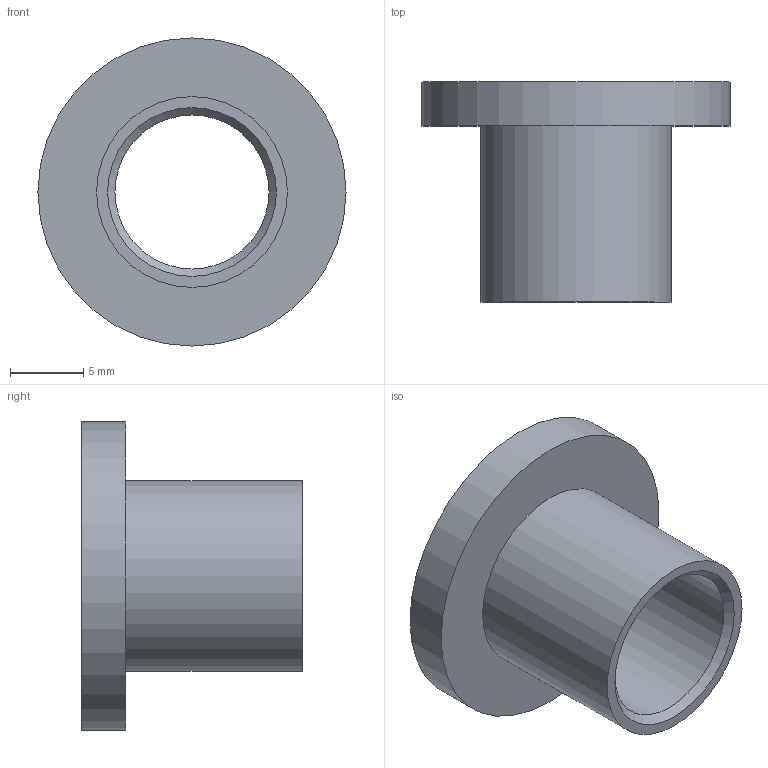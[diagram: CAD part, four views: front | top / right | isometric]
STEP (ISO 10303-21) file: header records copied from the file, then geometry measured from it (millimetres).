
FILE_DESCRIPTION(/* description */ (''),/* implementation_level */ '2;1');
FILE_NAME(/* name */ 'Pos165-Glijlager Skiffy-PA66-2st',/* time_stamp */ '2024-08-06T11:49:44+02:00',/* author */ (''),/* organization */ (''),/* preprocessor_version */ 'ST-DEVELOPER v16.5',/* originating_system */ 'HiCAD 2024 2901.2 Build 361',/* authorisation */ '');
FILE_SCHEMA (('AUTOMOTIVE_DESIGN { 1 0 10303 214 1 1 1 1 }'));
Length unit declared in the file: millimetre
Products named in the file (1): Pos165-Glijlager Skiffy-PA66-2st
Bounding box: 21 x 15 x 21 mm (x, y, z)
Volume: 1324.5 mm3; surface area: 1683.7 mm2
Topology: 1 solids, 1 shells, 8 faces, 13 edges, 8 vertices
Faces by surface type: cylinder 3, plane 3, cone 2
Full cylindrical faces by diameter (mm): 10.5 x1, 13 x1, 21 x1
Entity records: 266 total; most frequent: DIRECTION 32, CARTESIAN_POINT 24, PRESENTATION_STYLE_ASSIGNMENT 17, COLOUR_RGB 17, DRAUGHTING_PRE_DEFINED_CURVE_FONT 16, CURVE_STYLE 16, OVER_RIDING_STYLED_ITEM 16, ORIENTED_EDGE 16
